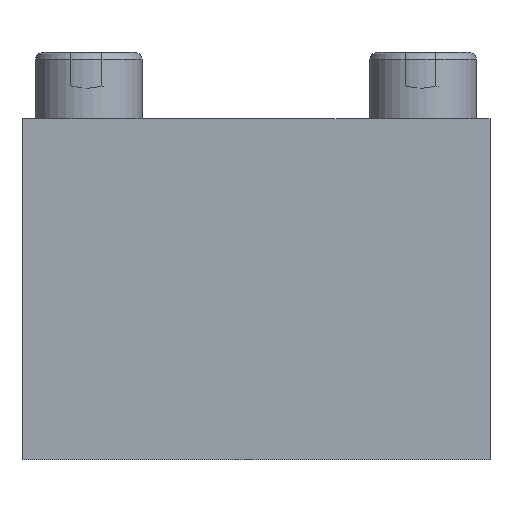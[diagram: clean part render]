
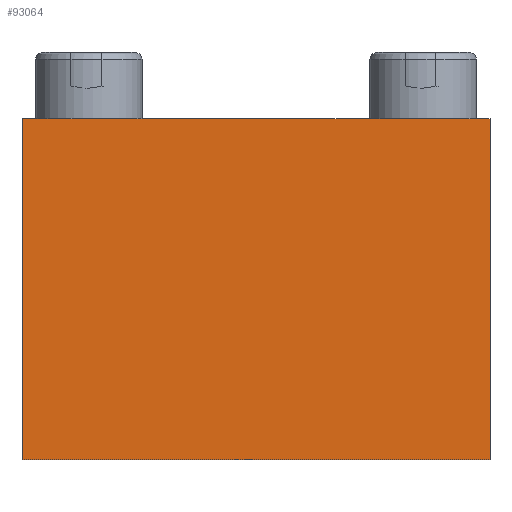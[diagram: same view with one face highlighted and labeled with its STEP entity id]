
A CAD part, front view. The second image highlights one B-rep face of the part: STEP entity #93064.
In plain terms, the highlighted planar face has unit normal (0, -1, 0).
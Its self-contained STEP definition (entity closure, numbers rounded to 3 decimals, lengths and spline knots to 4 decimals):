
#4223=LINE('',#119880,#14427);
#6890=LINE('',#130635,#17094);
#6891=LINE('',#130637,#17095);
#6892=LINE('',#130638,#17096);
#14427=VECTOR('',#101928,7.);
#17094=VECTOR('',#104859,5.1);
#17095=VECTOR('',#104860,5.1);
#17096=VECTOR('',#104861,7.);
#24635=PLANE('',#98144);
#28809=FACE_OUTER_BOUND('',#34211,.T.);
#34211=EDGE_LOOP('',(#65416,#65417,#65418,#65419));
#39495=VERTEX_POINT('',#119877);
#39496=VERTEX_POINT('',#119879);
#43292=VERTEX_POINT('',#130634);
#43293=VERTEX_POINT('',#130636);
#48351=EDGE_CURVE('',#39495,#39496,#4223,.T.);
#52148=EDGE_CURVE('',#39496,#43292,#6890,.T.);
#52149=EDGE_CURVE('',#39495,#43293,#6891,.T.);
#52150=EDGE_CURVE('',#43292,#43293,#6892,.T.);
#65416=ORIENTED_EDGE('',*,*,#52148,.F.);
#65417=ORIENTED_EDGE('',*,*,#48351,.F.);
#65418=ORIENTED_EDGE('',*,*,#52149,.T.);
#65419=ORIENTED_EDGE('',*,*,#52150,.F.);
#93064=ADVANCED_FACE('',(#28809),#24635,.T.);
#98144=AXIS2_PLACEMENT_3D('',#130633,#104857,#104858);
#101928=DIRECTION('',(1.,0.,0.));
#104857=DIRECTION('center_axis',(0.,-1.,0.));
#104858=DIRECTION('ref_axis',(-1.,0.,0.));
#104859=DIRECTION('',(0.,0.,-1.));
#104860=DIRECTION('',(0.,0.,-1.));
#104861=DIRECTION('',(-1.,0.,0.));
#119877=CARTESIAN_POINT('',(-3.5,-12.5,4.1));
#119879=CARTESIAN_POINT('',(3.5,-12.5,4.1));
#119880=CARTESIAN_POINT('',(3.5,-12.5,4.1));
#130633=CARTESIAN_POINT('Origin',(3.5,-12.5,3.1));
#130634=CARTESIAN_POINT('',(3.5,-12.5,-1.));
#130635=CARTESIAN_POINT('',(3.5,-12.5,0.));
#130636=CARTESIAN_POINT('',(-3.5,-12.5,-1.));
#130637=CARTESIAN_POINT('',(-3.5,-12.5,0.));
#130638=CARTESIAN_POINT('',(3.5,-12.5,-1.));
